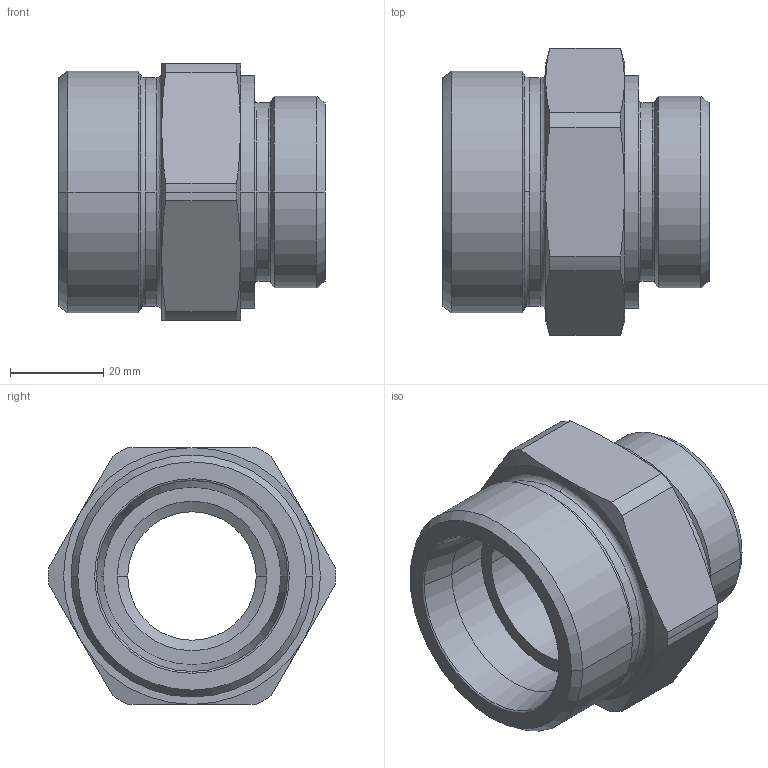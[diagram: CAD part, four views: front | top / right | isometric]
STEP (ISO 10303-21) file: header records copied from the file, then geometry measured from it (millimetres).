
FILE_DESCRIPTION((''),'2;1');
FILE_NAME('100941.stp','2007-10-30T15:35:40',(''),(''),'AutoCAD STEP 2000i','AutoCAD 2000i',', , ');
FILE_SCHEMA(('CONFIG_CONTROL_DESIGN'));
Length unit declared in the file: millimetre
Products named in the file (2): 100941.0; CHIAVE SMUSSATA#0
Assembly tree (1 placements, depth 2):
  100941.0
    CHIAVE SMUSSATA#0
Bounding box: 57 x 61.5 x 55 mm (x, y, z)
Volume: 67619.5 mm3; surface area: 18549.8 mm2
Topology: 1 solids, 1 shells, 72 faces, 173 edges, 107 vertices
Faces by surface type: cone 26, cylinder 24, plane 12, bspline 8, torus 2
Entity records: 2531 total; most frequent: CARTESIAN_POINT 754, DIRECTION 386, ORIENTED_EDGE 346, EDGE_CURVE 173, AXIS2_PLACEMENT_3D 171, VERTEX_POINT 107, CIRCLE 105, EDGE_LOOP 78
